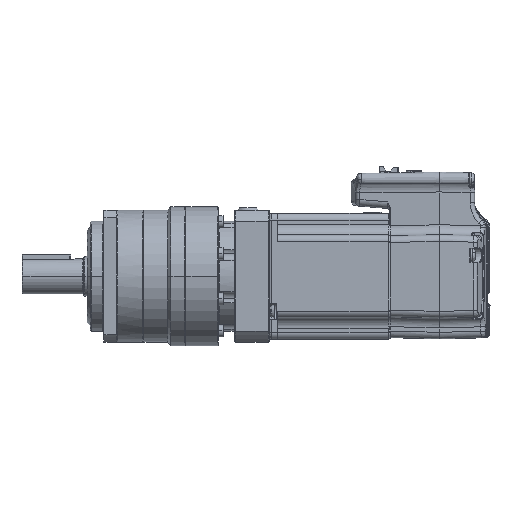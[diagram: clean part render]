
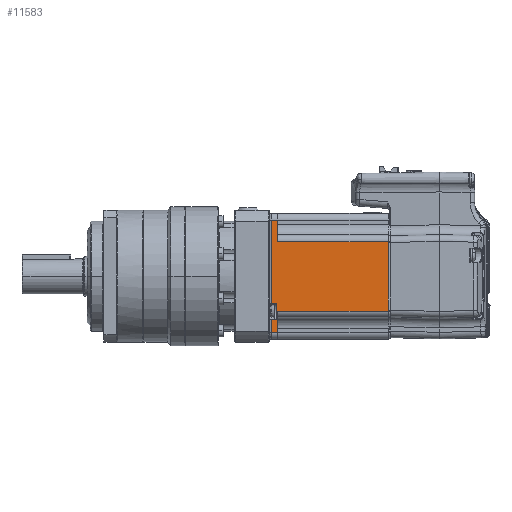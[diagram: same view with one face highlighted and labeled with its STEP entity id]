
A CAD part, left-side view. The second image highlights one B-rep face of the part: STEP entity #11583.
In plain terms, the highlighted planar face has unit normal (-1, 0, 0).
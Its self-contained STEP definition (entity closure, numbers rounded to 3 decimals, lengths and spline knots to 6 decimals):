
#11583 = ADVANCED_FACE ( 'NONE', ( #62419 ), #44042, .T. ) ;
#34307 = CARTESIAN_POINT ( 'NONE',  ( -0.028182, 0.061208, 0.0255 ) ) ;
#34321 = CARTESIAN_POINT ( 'NONE',  ( -0.028182, 0.061208, -0.0255 ) ) ;
#34410 = CARTESIAN_POINT ( 'NONE',  ( -0.028182, 0.058208, 0.0255 ) ) ;
#34412 = CARTESIAN_POINT ( 'NONE',  ( -0.028182, 0.058208, 0.01577 ) ) ;
#34418 = CARTESIAN_POINT ( 'NONE',  ( -0.028182, 0.061208, -0.0122 ) ) ;
#34420 = CARTESIAN_POINT ( 'NONE',  ( -0.028182, 0.058708, -0.0122 ) ) ;
#34424 = CARTESIAN_POINT ( 'NONE',  ( -0.028182, 0.058208, -0.01577 ) ) ;
#34428 = CARTESIAN_POINT ( 'NONE',  ( -0.028182, 0.061208, -0.0196 ) ) ;
#34430 = CARTESIAN_POINT ( 'NONE',  ( -0.028182, 0.058708, -0.0196 ) ) ;
#34434 = CARTESIAN_POINT ( 'NONE',  ( -0.028182, 0.058208, -0.0255 ) ) ;
#34472 = CARTESIAN_POINT ( 'NONE',  ( -0.028182, 0.008208, 0.01577 ) ) ;
#34488 = CARTESIAN_POINT ( 'NONE',  ( -0.028182, 0.008208, -0.01577 ) ) ;
#43361 = EDGE_LOOP ( 'NONE', ( #130017, #130019, #130021, #130023, #130025, #130027, #130029, #130031, #130033, #130035, #130037, #130039 ) ) ;
#44037 = CARTESIAN_POINT ( 'NONE',  ( -0.028182, 0.007208, -0.0285 ) ) ;
#44042 = PLANE ( 'NONE',  #48114 ) ;
#44047 = DIRECTION ( 'NONE',  ( -1., 0., 0. ) ) ;
#44049 = DIRECTION ( 'NONE',  ( 0., 0., 1. ) ) ;
#48114 = AXIS2_PLACEMENT_3D ( 'NONE', #44037, #44047, #44049 ) ;
#62419 = FACE_OUTER_BOUND ( 'NONE', #43361, .T. ) ;
#93349 = EDGE_CURVE ( 'NONE', #145589, #145587, #108518, .T. ) ;
#93378 = EDGE_CURVE ( 'NONE', #145587, #145467, #108541, .T. ) ;
#93392 = EDGE_CURVE ( 'NONE', #145467, #145596, #108561, .T. ) ;
#93402 = EDGE_CURVE ( 'NONE', #145596, #145598, #108571, .T. ) ;
#93411 = EDGE_CURVE ( 'NONE', #145598, #145608, #108584, .T. ) ;
#93421 = EDGE_CURVE ( 'NONE', #145608, #145605, #108596, .T. ) ;
#93425 = EDGE_CURVE ( 'NONE', #145605, #145486, #108599, .T. ) ;
#93440 = EDGE_CURVE ( 'NONE', #145486, #145612, #108547, .T. ) ;
#93445 = EDGE_CURVE ( 'NONE', #145612, #145602, #108621, .T. ) ;
#93702 = EDGE_CURVE ( 'NONE', #145650, #145589, #108859, .T. ) ;
#93706 = EDGE_CURVE ( 'NONE', #145650, #145667, #108867, .T. ) ;
#93711 = EDGE_CURVE ( 'NONE', #145667, #145602, #108865, .T. ) ;
#108518 = LINE ( 'NONE', #118389, #108524 ) ;
#108524 = VECTOR ( 'NONE', #118393, 1. ) ;
#108541 = LINE ( 'NONE', #118490, #108553 ) ;
#108547 = LINE ( 'NONE', #118617, #108624 ) ;
#108553 = VECTOR ( 'NONE', #118479, 1. ) ;
#108561 = LINE ( 'NONE', #118482, #108568 ) ;
#108568 = VECTOR ( 'NONE', #118487, 1. ) ;
#108571 = LINE ( 'NONE', #118547, #108581 ) ;
#108581 = VECTOR ( 'NONE', #118553, 1. ) ;
#108584 = LINE ( 'NONE', #118563, #108594 ) ;
#108594 = VECTOR ( 'NONE', #118568, 1. ) ;
#108596 = LINE ( 'NONE', #118516, #108603 ) ;
#108599 = LINE ( 'NONE', #118594, #108608 ) ;
#108603 = VECTOR ( 'NONE', #118521, 1. ) ;
#108608 = VECTOR ( 'NONE', #118598, 1. ) ;
#108621 = LINE ( 'NONE', #118631, #108631 ) ;
#108624 = VECTOR ( 'NONE', #118574, 1. ) ;
#108631 = VECTOR ( 'NONE', #118637, 1. ) ;
#108859 = LINE ( 'NONE', #119202, #108870 ) ;
#108865 = LINE ( 'NONE', #119200, #108883 ) ;
#108867 = LINE ( 'NONE', #119217, #108877 ) ;
#108870 = VECTOR ( 'NONE', #119188, 1. ) ;
#108877 = VECTOR ( 'NONE', #119223, 1. ) ;
#108883 = VECTOR ( 'NONE', #119226, 1. ) ;
#118389 = CARTESIAN_POINT ( 'NONE',  ( -0.028182, 0.058208, -0.0285 ) ) ;
#118393 = DIRECTION ( 'NONE',  ( 0., 0., 1. ) ) ;
#118479 = DIRECTION ( 'NONE',  ( 0., 1., 0. ) ) ;
#118482 = CARTESIAN_POINT ( 'NONE',  ( -0.028182, 0.061208, -0.0285 ) ) ;
#118487 = DIRECTION ( 'NONE',  ( 0., 0., -1. ) ) ;
#118490 = CARTESIAN_POINT ( 'NONE',  ( -0.028182, 0.007208, 0.0255 ) ) ;
#118516 = CARTESIAN_POINT ( 'NONE',  ( -0.028182, 0.007208, -0.0196 ) ) ;
#118521 = DIRECTION ( 'NONE',  ( 0., 1., 0. ) ) ;
#118547 = CARTESIAN_POINT ( 'NONE',  ( -0.028182, 0.007208, -0.0122 ) ) ;
#118553 = DIRECTION ( 'NONE',  ( 0., -1., 0. ) ) ;
#118563 = CARTESIAN_POINT ( 'NONE',  ( -0.028182, 0.058708, -0.0285 ) ) ;
#118568 = DIRECTION ( 'NONE',  ( 0., 0., -1. ) ) ;
#118574 = DIRECTION ( 'NONE',  ( 0., -1., 0. ) ) ;
#118594 = CARTESIAN_POINT ( 'NONE',  ( -0.028182, 0.061208, -0.0285 ) ) ;
#118598 = DIRECTION ( 'NONE',  ( 0., 0., -1. ) ) ;
#118617 = CARTESIAN_POINT ( 'NONE',  ( -0.028182, 0.007208, -0.0255 ) ) ;
#118631 = CARTESIAN_POINT ( 'NONE',  ( -0.028182, 0.058208, -0.0285 ) ) ;
#118637 = DIRECTION ( 'NONE',  ( 0., 0., 1. ) ) ;
#119188 = DIRECTION ( 'NONE',  ( 0., 1., 0. ) ) ;
#119200 = CARTESIAN_POINT ( 'NONE',  ( -0.028182, 0.058208, -0.01577 ) ) ;
#119202 = CARTESIAN_POINT ( 'NONE',  ( -0.028182, 0.007208, 0.01577 ) ) ;
#119217 = CARTESIAN_POINT ( 'NONE',  ( -0.028182, 0.008208, 0.01577 ) ) ;
#119223 = DIRECTION ( 'NONE',  ( 0., 0., -1. ) ) ;
#119226 = DIRECTION ( 'NONE',  ( 0., 1., 0. ) ) ;
#130017 = ORIENTED_EDGE ( 'NONE', *, *, #93706, .F. ) ;
#130019 = ORIENTED_EDGE ( 'NONE', *, *, #93702, .T. ) ;
#130021 = ORIENTED_EDGE ( 'NONE', *, *, #93349, .T. ) ;
#130023 = ORIENTED_EDGE ( 'NONE', *, *, #93378, .T. ) ;
#130025 = ORIENTED_EDGE ( 'NONE', *, *, #93392, .T. ) ;
#130027 = ORIENTED_EDGE ( 'NONE', *, *, #93402, .T. ) ;
#130029 = ORIENTED_EDGE ( 'NONE', *, *, #93411, .T. ) ;
#130031 = ORIENTED_EDGE ( 'NONE', *, *, #93421, .T. ) ;
#130033 = ORIENTED_EDGE ( 'NONE', *, *, #93425, .T. ) ;
#130035 = ORIENTED_EDGE ( 'NONE', *, *, #93440, .T. ) ;
#130037 = ORIENTED_EDGE ( 'NONE', *, *, #93445, .T. ) ;
#130039 = ORIENTED_EDGE ( 'NONE', *, *, #93711, .F. ) ;
#145467 = VERTEX_POINT ( 'NONE', #34307 ) ;
#145486 = VERTEX_POINT ( 'NONE', #34321 ) ;
#145587 = VERTEX_POINT ( 'NONE', #34410 ) ;
#145589 = VERTEX_POINT ( 'NONE', #34412 ) ;
#145596 = VERTEX_POINT ( 'NONE', #34418 ) ;
#145598 = VERTEX_POINT ( 'NONE', #34420 ) ;
#145602 = VERTEX_POINT ( 'NONE', #34424 ) ;
#145605 = VERTEX_POINT ( 'NONE', #34428 ) ;
#145608 = VERTEX_POINT ( 'NONE', #34430 ) ;
#145612 = VERTEX_POINT ( 'NONE', #34434 ) ;
#145650 = VERTEX_POINT ( 'NONE', #34472 ) ;
#145667 = VERTEX_POINT ( 'NONE', #34488 ) ;
